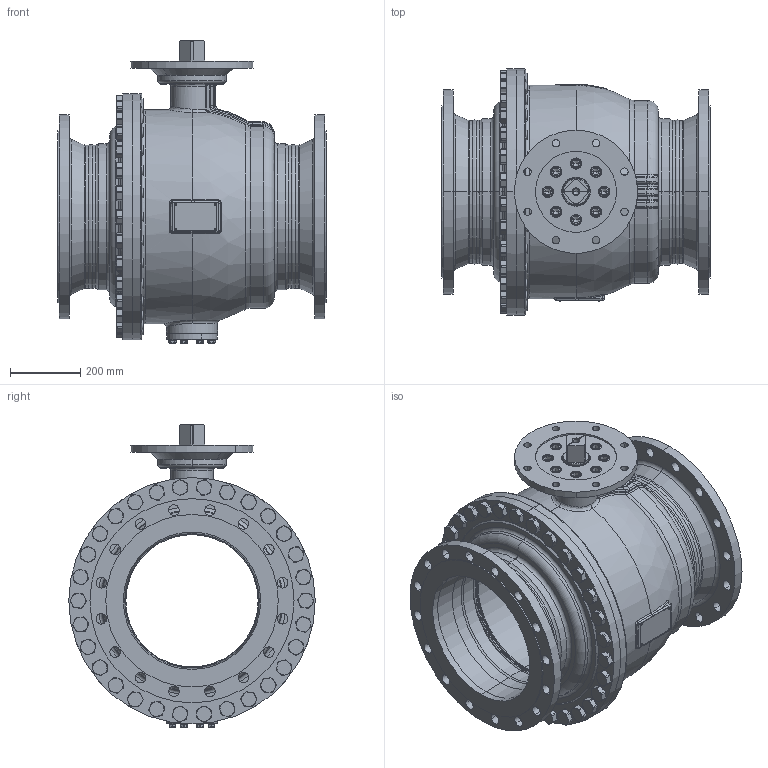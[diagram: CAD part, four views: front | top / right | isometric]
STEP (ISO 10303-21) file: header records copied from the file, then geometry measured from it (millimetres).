
FILE_DESCRIPTION((''),'2;1');
FILE_NAME('KHI-F_400_PN016-F30-4_SW0001','2026-02-05T16:29:27',('fischerkl'),('KLINGER'),'CREO PARAMETRIC BY PTC INC, 2023014','CREO PARAMETRIC BY PTC INC, 2023014','');
FILE_SCHEMA(('CONFIG_CONTROL_DESIGN'));
Products named in the file (1): KHI-F_400_PN016-F30-4_SW0001
Bounding box: 762 x 700 x 858.3 mm (x, y, z)
Volume: 53539196.1 mm3; surface area: 6822332.8 mm2
Topology: 1 solids, 4 shells, 3548 faces, 8934 edges, 5577 vertices
Faces by surface type: plane 1754, cylinder 849, cone 508, torus 307, bspline 99, sphere 31
Entity records: 151905 total; most frequent: CARTESIAN_POINT 67490, ORIENTED_EDGE 17816, DIRECTION 17489, EDGE_CURVE 8908, AXIS2_PLACEMENT_3D 6715, VERTEX_POINT 5577, VECTOR 4059, LINE 4059
